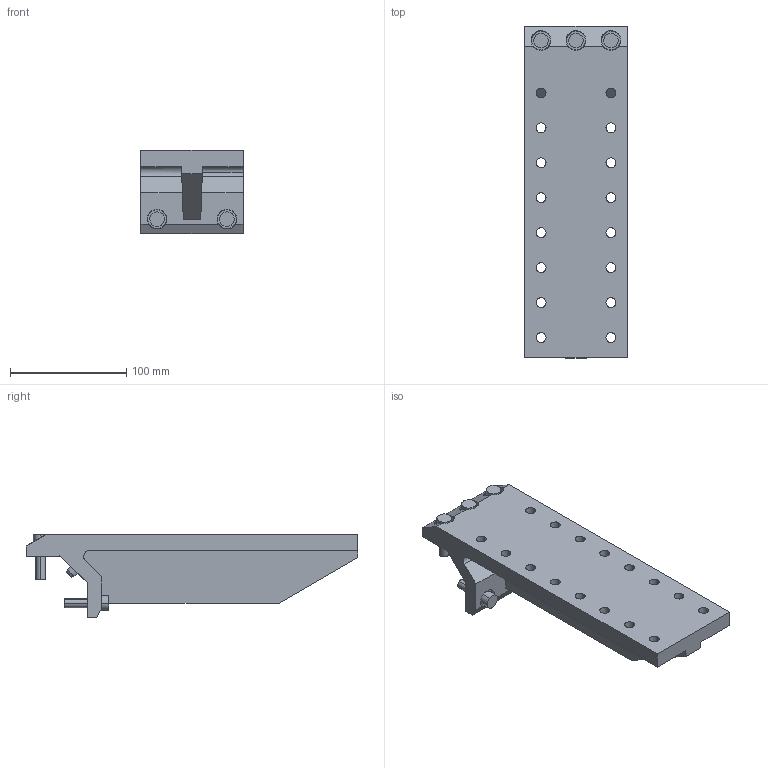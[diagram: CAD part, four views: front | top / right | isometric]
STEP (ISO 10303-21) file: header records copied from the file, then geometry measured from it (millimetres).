
FILE_DESCRIPTION(('STEP AP214'),'1');
FILE_NAME('EGT231_1_1725989_SEITENANB_RIP_IN_SW80.CATPart.stp','2015-09-14T13:14:21',('3D-Tool'),(' '),'Spatial InterOp 3D',' ',' ');
FILE_SCHEMA(('automotive_design'));
Length unit declared in the file: millimetre
Products named in the file (7): EGT231_1_1725989_SEITENANB_RIP_IN_SW80|EGT231_1_SEITENANB_RIP_IN_SW80|Bohrbearbeitung; EGT231_1_1725989_SEITENANB_RIP_IN_SW80|EGT_212|Solid.25; EGT231_1_1725989_SEITENANB_RIP_IN_SW80|Schraube_M8x30.1|Solid.26; EGT231_1_1725989_SEITENANB_RIP_IN_SW80|Schraube_M8x30.2|Solid.27; EGT231_1_1725989_SEITENANB_RIP_IN_SW80|Schraube_M8x30.3|Solid.28; EGT231_1_1725989_SEITENANB_RIP_IN_SW80|Schraube_M8x30.4|Solid.29; EGT231_1_1725989_SEITENANB_RIP_IN_SW80|Schraube_M8x30.5|Solid.30
Bounding box: 88 x 285 x 71.5 mm (x, y, z)
Volume: 569202.3 mm3; surface area: 103162.7 mm2
Topology: 7 solids, 7 shells, 239 faces, 641 edges, 426 vertices
Faces by surface type: cylinder 182, plane 55, cone 2
Entity records: 10135 total; most frequent: CARTESIAN_POINT 1676, DIRECTION 1465, ORIENTED_EDGE 1282, EDGE_CURVE 641, AXIS2_PLACEMENT_3D 604, VERTEX_POINT 426, CIRCLE 358, EDGE_LOOP 293
